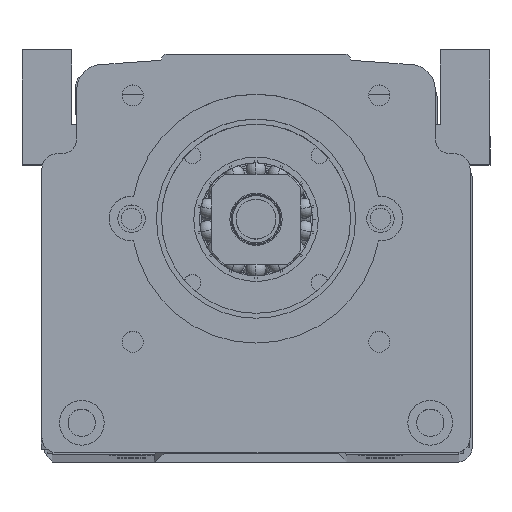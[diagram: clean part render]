
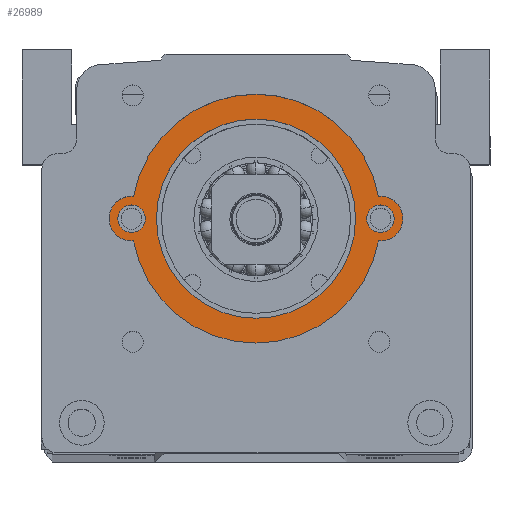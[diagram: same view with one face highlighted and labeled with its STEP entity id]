
A CAD part, top view. The second image highlights one B-rep face of the part: STEP entity #26989.
In plain terms, the highlighted planar face has unit normal (0, 0, 1).
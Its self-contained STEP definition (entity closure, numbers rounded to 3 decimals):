
#1808 = CIRCLE ( 'NONE', #45121, 2.75 ) ;
#2262 = ORIENTED_EDGE ( 'NONE', *, *, #5817, .F. ) ;
#4416 = FACE_BOUND ( 'NONE', #44886, .T. ) ;
#4565 = DIRECTION ( 'NONE',  ( 1., 0., 0. ) ) ;
#4629 = DIRECTION ( 'NONE',  ( 0., 0., 1. ) ) ;
#5217 = AXIS2_PLACEMENT_3D ( 'NONE', #29754, #67880, #35228 ) ;
#5489 = CARTESIAN_POINT ( 'NONE',  ( -28.143, 5.327, 7. ) ) ;
#5817 = EDGE_CURVE ( 'NONE', #58083, #7722, #44589, .T. ) ;
#6122 = FACE_OUTER_BOUND ( 'NONE', #53766, .T. ) ;
#6518 = ORIENTED_EDGE ( 'NONE', *, *, #27530, .F. ) ;
#7490 = DIRECTION ( 'NONE',  ( 1., 0., 0. ) ) ;
#7722 = VERTEX_POINT ( 'NONE', #63376 ) ;
#8169 = EDGE_CURVE ( 'NONE', #58435, #12109, #25693, .T. ) ;
#8357 = AXIS2_PLACEMENT_3D ( 'NONE', #53215, #20571, #58689 ) ;
#11878 = CARTESIAN_POINT ( 'NONE',  ( -8.143, 5.327, 7. ) ) ;
#12109 = VERTEX_POINT ( 'NONE', #58090 ) ;
#12675 = CARTESIAN_POINT ( 'NONE',  ( -33.143, 5.327, 7. ) ) ;
#13190 = DIRECTION ( 'NONE',  ( 0., 0., 1. ) ) ;
#13454 = CIRCLE ( 'NONE', #44232, 25. ) ;
#13527 = EDGE_CURVE ( 'NONE', #56208, #37809, #13454, .T. ) ;
#14184 = AXIS2_PLACEMENT_3D ( 'NONE', #14440, #52553, #19918 ) ;
#14440 = CARTESIAN_POINT ( 'NONE',  ( -8.143, 5.327, 7. ) ) ;
#14484 = CARTESIAN_POINT ( 'NONE',  ( 11.857, 5.327, 7. ) ) ;
#16675 = DIRECTION ( 'NONE',  ( 0., 0., 1. ) ) ;
#17332 = DIRECTION ( 'NONE',  ( 1., 0., 0. ) ) ;
#17590 = CARTESIAN_POINT ( 'NONE',  ( 16.857, 5.327, 7. ) ) ;
#18062 = EDGE_CURVE ( 'NONE', #68152, #33136, #39870, .T. ) ;
#18230 = AXIS2_PLACEMENT_3D ( 'NONE', #51712, #19090, #57199 ) ;
#19090 = DIRECTION ( 'NONE',  ( 0., 0., 1. ) ) ;
#19280 = AXIS2_PLACEMENT_3D ( 'NONE', #37155, #4629, #42641 ) ;
#19918 = DIRECTION ( 'NONE',  ( 1., 0., 0. ) ) ;
#20571 = DIRECTION ( 'NONE',  ( 0., 0., 1. ) ) ;
#22813 = CARTESIAN_POINT ( 'NONE',  ( -8.143, 5.327, 7. ) ) ;
#22918 = AXIS2_PLACEMENT_3D ( 'NONE', #17590, #55703, #23073 ) ;
#23073 = DIRECTION ( 'NONE',  ( 1., 0., 0. ) ) ;
#24298 = AXIS2_PLACEMENT_3D ( 'NONE', #69752, #37097, #4565 ) ;
#25364 = CARTESIAN_POINT ( 'NONE',  ( 21.357, 5.327, 7. ) ) ;
#25693 = CIRCLE ( 'NONE', #48616, 25. ) ;
#26989 = ADVANCED_FACE ( 'NONE', ( #60571, #6122, #4416, #47805 ), #67194, .T. ) ;
#27523 = ORIENTED_EDGE ( 'NONE', *, *, #49041, .T. ) ;
#27530 = EDGE_CURVE ( 'NONE', #7722, #58083, #1808, .T. ) ;
#28251 = AXIS2_PLACEMENT_3D ( 'NONE', #12675, #40034, #7490 ) ;
#28293 = DIRECTION ( 'NONE',  ( 1., 0., 0. ) ) ;
#28931 = ORIENTED_EDGE ( 'NONE', *, *, #18062, .F. ) ;
#29754 = CARTESIAN_POINT ( 'NONE',  ( -8.143, 5.327, 7. ) ) ;
#30211 = ORIENTED_EDGE ( 'NONE', *, *, #62203, .F. ) ;
#30777 = CIRCLE ( 'NONE', #19280, 4.5 ) ;
#30885 = CARTESIAN_POINT ( 'NONE',  ( 19.607, 5.327, 7. ) ) ;
#31337 = CIRCLE ( 'NONE', #18230, 4.5 ) ;
#31365 = CARTESIAN_POINT ( 'NONE',  ( 16.452, 9.808, 7. ) ) ;
#33136 = VERTEX_POINT ( 'NONE', #65781 ) ;
#33634 = VERTEX_POINT ( 'NONE', #14484 ) ;
#35228 = DIRECTION ( 'NONE',  ( 1., 0., 0. ) ) ;
#37097 = DIRECTION ( 'NONE',  ( 0., 0., 1. ) ) ;
#37106 = EDGE_LOOP ( 'NONE', ( #44597, #30211 ) ) ;
#37155 = CARTESIAN_POINT ( 'NONE',  ( 16.857, 5.327, 7. ) ) ;
#37809 = VERTEX_POINT ( 'NONE', #68602 ) ;
#38027 = ORIENTED_EDGE ( 'NONE', *, *, #13527, .T. ) ;
#39751 = EDGE_LOOP ( 'NONE', ( #6518, #2262 ) ) ;
#39870 = CIRCLE ( 'NONE', #24298, 2.75 ) ;
#40034 = DIRECTION ( 'NONE',  ( 0., 0., 1. ) ) ;
#42641 = DIRECTION ( 'NONE',  ( 1., 0., 0. ) ) ;
#43130 = CIRCLE ( 'NONE', #22918, 4.5 ) ;
#44232 = AXIS2_PLACEMENT_3D ( 'NONE', #11878, #49968, #17332 ) ;
#44589 = CIRCLE ( 'NONE', #8357, 2.75 ) ;
#44597 = ORIENTED_EDGE ( 'NONE', *, *, #63733, .F. ) ;
#44697 = CARTESIAN_POINT ( 'NONE',  ( -30.393, 5.327, 7. ) ) ;
#44886 = EDGE_LOOP ( 'NONE', ( #60098, #28931 ) ) ;
#45121 = AXIS2_PLACEMENT_3D ( 'NONE', #49304, #16675, #54777 ) ;
#45791 = CARTESIAN_POINT ( 'NONE',  ( 16.857, 5.327, 7. ) ) ;
#47149 = VERTEX_POINT ( 'NONE', #25364 ) ;
#47805 = FACE_BOUND ( 'NONE', #37106, .T. ) ;
#48616 = AXIS2_PLACEMENT_3D ( 'NONE', #22813, #60939, #28293 ) ;
#48912 = ORIENTED_EDGE ( 'NONE', *, *, #52744, .T. ) ;
#49041 = EDGE_CURVE ( 'NONE', #12109, #56208, #31337, .T. ) ;
#49304 = CARTESIAN_POINT ( 'NONE',  ( -33.143, 5.327, 7. ) ) ;
#49968 = DIRECTION ( 'NONE',  ( 0., 0., 1. ) ) ;
#51272 = DIRECTION ( 'NONE',  ( 1., 0., 0. ) ) ;
#51712 = CARTESIAN_POINT ( 'NONE',  ( -33.143, 5.327, 7. ) ) ;
#52300 = CIRCLE ( 'NONE', #14184, 20. ) ;
#52553 = DIRECTION ( 'NONE',  ( 0., 0., 1. ) ) ;
#52744 = EDGE_CURVE ( 'NONE', #37809, #47149, #43130, .T. ) ;
#53215 = CARTESIAN_POINT ( 'NONE',  ( -33.143, 5.327, 7. ) ) ;
#53766 = EDGE_LOOP ( 'NONE', ( #27523, #38027, #48912, #58637, #64473 ) ) ;
#54721 = EDGE_CURVE ( 'NONE', #33136, #68152, #60008, .T. ) ;
#54777 = DIRECTION ( 'NONE',  ( 1., 0., 0. ) ) ;
#55703 = DIRECTION ( 'NONE',  ( 0., 0., 1. ) ) ;
#56208 = VERTEX_POINT ( 'NONE', #67576 ) ;
#57199 = DIRECTION ( 'NONE',  ( 1., 0., 0. ) ) ;
#57297 = CIRCLE ( 'NONE', #5217, 20. ) ;
#58083 = VERTEX_POINT ( 'NONE', #44697 ) ;
#58090 = CARTESIAN_POINT ( 'NONE',  ( -32.738, 9.808, 7. ) ) ;
#58435 = VERTEX_POINT ( 'NONE', #31365 ) ;
#58637 = ORIENTED_EDGE ( 'NONE', *, *, #64993, .T. ) ;
#58689 = DIRECTION ( 'NONE',  ( 1., 0., 0. ) ) ;
#60008 = CIRCLE ( 'NONE', #67259, 2.75 ) ;
#60098 = ORIENTED_EDGE ( 'NONE', *, *, #54721, .F. ) ;
#60571 = FACE_BOUND ( 'NONE', #39751, .T. ) ;
#60939 = DIRECTION ( 'NONE',  ( 0., 0., 1. ) ) ;
#62203 = EDGE_CURVE ( 'NONE', #33634, #62500, #52300, .T. ) ;
#62500 = VERTEX_POINT ( 'NONE', #5489 ) ;
#63376 = CARTESIAN_POINT ( 'NONE',  ( -35.893, 5.327, 7. ) ) ;
#63733 = EDGE_CURVE ( 'NONE', #62500, #33634, #57297, .T. ) ;
#64473 = ORIENTED_EDGE ( 'NONE', *, *, #8169, .T. ) ;
#64993 = EDGE_CURVE ( 'NONE', #47149, #58435, #30777, .T. ) ;
#65781 = CARTESIAN_POINT ( 'NONE',  ( 14.107, 5.327, 7. ) ) ;
#67194 = PLANE ( 'NONE',  #28251 ) ;
#67259 = AXIS2_PLACEMENT_3D ( 'NONE', #45791, #13190, #51272 ) ;
#67576 = CARTESIAN_POINT ( 'NONE',  ( -32.738, 0.845, 7. ) ) ;
#67880 = DIRECTION ( 'NONE',  ( 0., 0., 1. ) ) ;
#68152 = VERTEX_POINT ( 'NONE', #30885 ) ;
#68602 = CARTESIAN_POINT ( 'NONE',  ( 16.452, 0.845, 7. ) ) ;
#69752 = CARTESIAN_POINT ( 'NONE',  ( 16.857, 5.327, 7. ) ) ;
